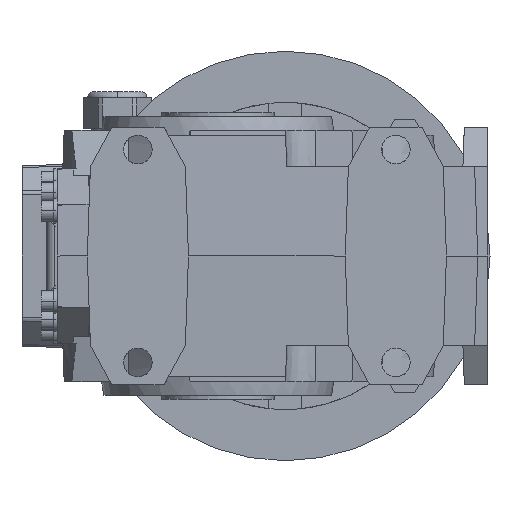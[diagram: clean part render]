
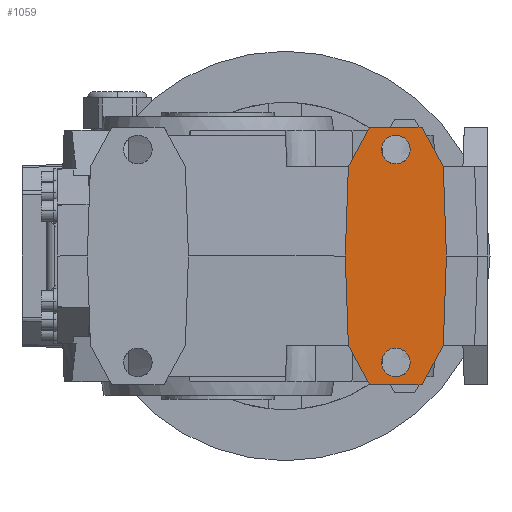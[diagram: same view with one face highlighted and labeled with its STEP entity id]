
A CAD part, left-side view. The second image highlights one B-rep face of the part: STEP entity #1059.
In plain terms, the highlighted planar face has unit normal (-1, 0, 0).
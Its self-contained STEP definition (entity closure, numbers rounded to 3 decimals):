
#1059 = ADVANCED_FACE( '', ( #4303, #4304, #4305 ), #4306, .T. );
#4303 = FACE_BOUND( '', #9840, .T. );
#4304 = FACE_BOUND( '', #9841, .T. );
#4305 = FACE_OUTER_BOUND( '', #9842, .T. );
#4306 = PLANE( '', #9843 );
#9840 = EDGE_LOOP( '', ( #18430, #18431 ) );
#9841 = EDGE_LOOP( '', ( #18432, #18433 ) );
#9842 = EDGE_LOOP( '', ( #18434, #18435, #18436, #18437, #18438, #18439, #18440, #18441, #18442, #18443 ) );
#9843 = AXIS2_PLACEMENT_3D( '', #18444, #18445, #18446 );
#18430 = ORIENTED_EDGE( '', *, *, #37021, .T. );
#18431 = ORIENTED_EDGE( '', *, *, #37198, .T. );
#18432 = ORIENTED_EDGE( '', *, *, #37017, .T. );
#18433 = ORIENTED_EDGE( '', *, *, #37200, .T. );
#18434 = ORIENTED_EDGE( '', *, *, #38141, .T. );
#18435 = ORIENTED_EDGE( '', *, *, #38145, .T. );
#18436 = ORIENTED_EDGE( '', *, *, #38148, .T. );
#18437 = ORIENTED_EDGE( '', *, *, #38151, .T. );
#18438 = ORIENTED_EDGE( '', *, *, #38152, .T. );
#18439 = ORIENTED_EDGE( '', *, *, #38132, .T. );
#18440 = ORIENTED_EDGE( '', *, *, #38136, .T. );
#18441 = ORIENTED_EDGE( '', *, *, #38156, .T. );
#18442 = ORIENTED_EDGE( '', *, *, #38159, .T. );
#18443 = ORIENTED_EDGE( '', *, *, #38160, .T. );
#18444 = CARTESIAN_POINT( '', ( -88., -33., 0. ) );
#18445 = DIRECTION( '', ( -1., 0., 0. ) );
#18446 = DIRECTION( '', ( 0., 0., 1. ) );
#37017 = EDGE_CURVE( '', #44492, #44496, #44498, .T. );
#37021 = EDGE_CURVE( '', #44500, #44504, #44506, .T. );
#37198 = EDGE_CURVE( '', #44504, #44500, #44787, .T. );
#37200 = EDGE_CURVE( '', #44496, #44492, #44789, .T. );
#38132 = EDGE_CURVE( '', #46293, #46291, #46294, .T. );
#38136 = EDGE_CURVE( '', #46291, #46298, #46300, .T. );
#38141 = EDGE_CURVE( '', #46308, #46306, #46309, .T. );
#38145 = EDGE_CURVE( '', #46306, #46313, #46315, .T. );
#38148 = EDGE_CURVE( '', #46313, #46318, #46320, .T. );
#38151 = EDGE_CURVE( '', #46318, #46323, #46325, .T. );
#38152 = EDGE_CURVE( '', #46323, #46293, #46326, .T. );
#38156 = EDGE_CURVE( '', #46298, #46330, #46332, .T. );
#38159 = EDGE_CURVE( '', #46330, #46335, #46337, .T. );
#38160 = EDGE_CURVE( '', #46335, #46308, #46338, .T. );
#44492 = VERTEX_POINT( '', #56818 );
#44496 = VERTEX_POINT( '', #56823 );
#44498 = CIRCLE( '', #56826, 7. );
#44500 = VERTEX_POINT( '', #56828 );
#44504 = VERTEX_POINT( '', #56833 );
#44506 = CIRCLE( '', #56836, 7. );
#44787 = CIRCLE( '', #57205, 7. );
#44789 = CIRCLE( '', #57207, 7. );
#46291 = VERTEX_POINT( '', #59673 );
#46293 = VERTEX_POINT( '', #59676 );
#46294 = LINE( '', #59677, #59678 );
#46298 = VERTEX_POINT( '', #59684 );
#46300 = LINE( '', #59687, #59688 );
#46306 = VERTEX_POINT( '', #59697 );
#46308 = VERTEX_POINT( '', #59700 );
#46309 = LINE( '', #59701, #59702 );
#46313 = VERTEX_POINT( '', #59708 );
#46315 = LINE( '', #59711, #59712 );
#46318 = VERTEX_POINT( '', #59716 );
#46320 = LINE( '', #59719, #59720 );
#46323 = VERTEX_POINT( '', #59724 );
#46325 = LINE( '', #59727, #59728 );
#46326 = LINE( '', #59729, #59730 );
#46330 = VERTEX_POINT( '', #59736 );
#46332 = LINE( '', #59739, #59740 );
#46335 = VERTEX_POINT( '', #59744 );
#46337 = LINE( '', #59747, #59748 );
#46338 = LINE( '', #59749, #59750 );
#56818 = CARTESIAN_POINT( '', ( -88., -87., 59. ) );
#56823 = CARTESIAN_POINT( '', ( -88., -87., 45. ) );
#56826 = AXIS2_PLACEMENT_3D( '', #75920, #75921, #75922 );
#56828 = CARTESIAN_POINT( '', ( -88., -87., -45. ) );
#56833 = CARTESIAN_POINT( '', ( -88., -87., -59. ) );
#56836 = AXIS2_PLACEMENT_3D( '', #75928, #75929, #75930 );
#57205 = AXIS2_PLACEMENT_3D( '', #76283, #76284, #76285 );
#57207 = AXIS2_PLACEMENT_3D( '', #76289, #76290, #76291 );
#59673 = CARTESIAN_POINT( '', ( -88., -74.201, 63. ) );
#59676 = CARTESIAN_POINT( '', ( -88., -99.799, 63. ) );
#59677 = CARTESIAN_POINT( '', ( -88., -99.799, 63. ) );
#59678 = VECTOR( '', #77603, 1. );
#59684 = CARTESIAN_POINT( '', ( -88., -63.818, 43.474 ) );
#59687 = CARTESIAN_POINT( '', ( -88., -74.201, 63. ) );
#59688 = VECTOR( '', #77607, 1. );
#59697 = CARTESIAN_POINT( '', ( -88., -99.799, -63. ) );
#59700 = CARTESIAN_POINT( '', ( -88., -74.201, -63. ) );
#59701 = CARTESIAN_POINT( '', ( -88., -74.201, -63. ) );
#59702 = VECTOR( '', #77612, 1. );
#59708 = CARTESIAN_POINT( '', ( -88., -110.182, -43.474 ) );
#59711 = CARTESIAN_POINT( '', ( -88., -99.799, -63. ) );
#59712 = VECTOR( '', #77616, 1. );
#59716 = CARTESIAN_POINT( '', ( -88., -111.7, 0. ) );
#59719 = CARTESIAN_POINT( '', ( -88., -110.182, -43.474 ) );
#59720 = VECTOR( '', #77619, 1. );
#59724 = CARTESIAN_POINT( '', ( -88., -110.182, 43.474 ) );
#59727 = CARTESIAN_POINT( '', ( -88., -111.7, 0. ) );
#59728 = VECTOR( '', #77622, 1. );
#59729 = CARTESIAN_POINT( '', ( -88., -110.182, 43.474 ) );
#59730 = VECTOR( '', #77623, 1. );
#59736 = CARTESIAN_POINT( '', ( -88., -62.3, 0. ) );
#59739 = CARTESIAN_POINT( '', ( -88., -63.818, 43.474 ) );
#59740 = VECTOR( '', #77627, 1. );
#59744 = CARTESIAN_POINT( '', ( -88., -63.818, -43.474 ) );
#59747 = CARTESIAN_POINT( '', ( -88., -62.3, 0. ) );
#59748 = VECTOR( '', #77630, 1. );
#59749 = CARTESIAN_POINT( '', ( -88., -63.818, -43.474 ) );
#59750 = VECTOR( '', #77631, 1. );
#75920 = CARTESIAN_POINT( '', ( -88., -87., 52. ) );
#75921 = DIRECTION( '', ( 1., 0., 0. ) );
#75922 = DIRECTION( '', ( 0., 0., 1. ) );
#75928 = CARTESIAN_POINT( '', ( -88., -87., -52. ) );
#75929 = DIRECTION( '', ( 1., 0., 0. ) );
#75930 = DIRECTION( '', ( 0., 0., 1. ) );
#76283 = CARTESIAN_POINT( '', ( -88., -87., -52. ) );
#76284 = DIRECTION( '', ( 1., 0., 0. ) );
#76285 = DIRECTION( '', ( 0., 0., 1. ) );
#76289 = CARTESIAN_POINT( '', ( -88., -87., 52. ) );
#76290 = DIRECTION( '', ( 1., 0., 0. ) );
#76291 = DIRECTION( '', ( 0., 0., 1. ) );
#77603 = DIRECTION( '', ( 0., 1., 0. ) );
#77607 = DIRECTION( '', ( 0., 0.469, -0.883 ) );
#77612 = DIRECTION( '', ( 0., -1., 0. ) );
#77616 = DIRECTION( '', ( 0., -0.469, 0.883 ) );
#77619 = DIRECTION( '', ( 0., -0.035, 0.999 ) );
#77622 = DIRECTION( '', ( 0., 0.035, 0.999 ) );
#77623 = DIRECTION( '', ( 0., 0.469, 0.883 ) );
#77627 = DIRECTION( '', ( 0., 0.035, -0.999 ) );
#77630 = DIRECTION( '', ( 0., -0.035, -0.999 ) );
#77631 = DIRECTION( '', ( 0., -0.469, -0.883 ) );
